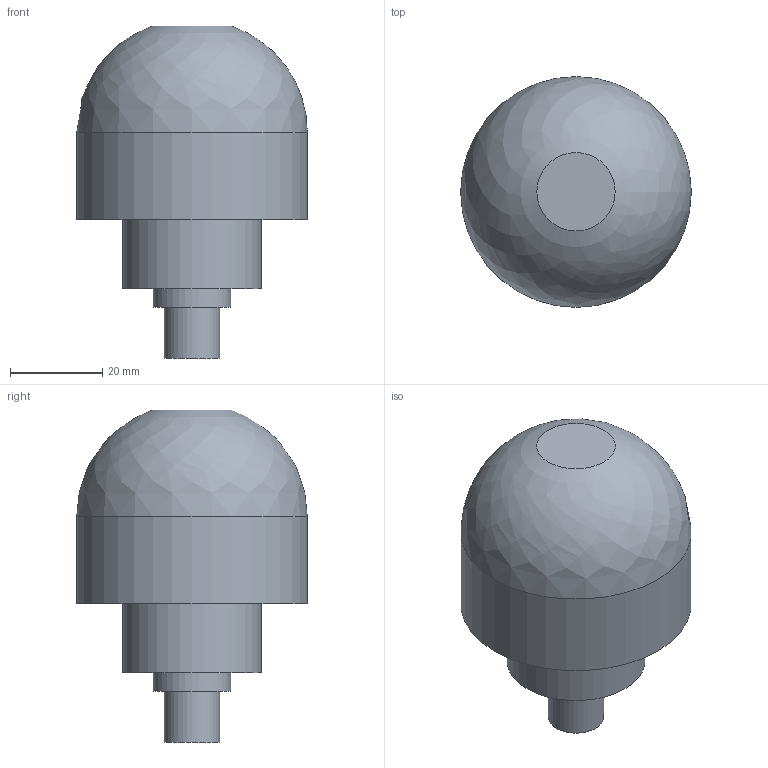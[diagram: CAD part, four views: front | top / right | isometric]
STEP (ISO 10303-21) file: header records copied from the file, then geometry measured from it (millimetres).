
FILE_DESCRIPTION(('FreeCAD Model'),'2;1');
FILE_NAME('Open CASCADE Shape Model','2024-06-05T09:06:20',( 'Thomas Reinhold'),('Eickmann Elektronik GmbH&.Co'), 'Open CASCADE STEP processor 7.6','FreeCAD','Unknown');
FILE_SCHEMA(('AUTOMOTIVE_DESIGN { 1 0 10303 214 1 1 1 1 }'));
Length unit declared in the file: millimetre
Products named in the file (12): Unnamed; Körper; Sketch; Revolution; Sketch001; Revolution001; Sketch002; Revolution002; Sketch003; Revolution003; Sketch004; Revolution004
Assembly tree (11 placements, depth 2):
  Unnamed
    Körper
    Sketch
    Revolution
    Sketch001
    Revolution001
    Sketch002
    Revolution002
    Sketch003
    Revolution003
    Sketch004
    Revolution004
Bounding box: 50 x 50 x 72 mm (x, y, z)
Surface area: 35834.3 mm2
Topology: 6 solids, 6 shells, 44 faces, 78 edges, 78 vertices
Faces by surface type: plane 24, cylinder 18, revolution 2
Full cylindrical faces by diameter (mm): 12 x6, 16.8 x5, 30 x4, 50 x3
Entity records: 1484 total; most frequent: DIRECTION 233, CARTESIAN_POINT 214, ORIENTED_EDGE 116, AXIS2_PLACEMENT_3D 97, EDGE_CURVE 58, FACE_BOUND 56, EDGE_LOOP 56, ADVANCED_FACE 44
